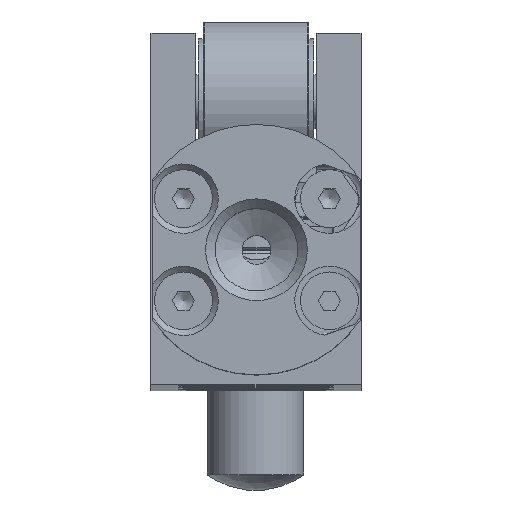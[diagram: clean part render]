
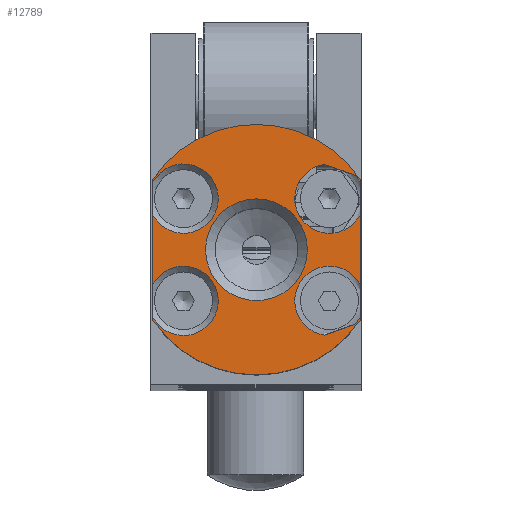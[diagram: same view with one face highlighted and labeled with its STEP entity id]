
A CAD part, top view. The second image highlights one B-rep face of the part: STEP entity #12789.
In plain terms, the highlighted planar face has unit normal (0, 0, 1).
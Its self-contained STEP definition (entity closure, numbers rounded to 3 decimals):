
#320=FACE_BOUND('',#3295,.T.);
#982=LINE('',#23935,#1497);
#983=LINE('',#23937,#1498);
#984=LINE('',#23942,#1499);
#991=LINE('',#23991,#1506);
#994=LINE('',#24012,#1509);
#995=LINE('',#24013,#1510);
#996=LINE('',#24014,#1511);
#999=LINE('',#24028,#1514);
#1497=VECTOR('',#18525,10.);
#1498=VECTOR('',#18526,10.);
#1499=VECTOR('',#18527,10.);
#1506=VECTOR('',#18566,10.);
#1509=VECTOR('',#18583,10.);
#1510=VECTOR('',#18584,10.);
#1511=VECTOR('',#18585,10.);
#1514=VECTOR('',#18602,10.);
#2499=FACE_OUTER_BOUND('',#3294,.T.);
#3294=EDGE_LOOP('',(#11205,#11206,#11207,#11208,#11209,#11210,#11211,#11212,
#11213,#11214,#11215,#11216,#11217,#11218,#11219,#11220));
#3295=EDGE_LOOP('',(#11221));
#4415=CIRCLE('',#14545,13.);
#4420=CIRCLE('',#14554,13.);
#4426=CIRCLE('',#14565,5.283);
#4429=CIRCLE('',#14570,3.6);
#4432=CIRCLE('',#14576,3.6);
#4433=CIRCLE('',#14577,3.6);
#4436=CIRCLE('',#14583,3.6);
#4437=CIRCLE('',#14585,3.6);
#4438=CIRCLE('',#14586,3.6);
#5673=VERTEX_POINT('',#23907);
#5674=VERTEX_POINT('',#23909);
#5678=VERTEX_POINT('',#23924);
#5679=VERTEX_POINT('',#23926);
#5680=VERTEX_POINT('',#23930);
#5681=VERTEX_POINT('',#23931);
#5682=VERTEX_POINT('',#23936);
#5683=VERTEX_POINT('',#23938);
#5689=VERTEX_POINT('',#23960);
#5692=VERTEX_POINT('',#23970);
#5694=VERTEX_POINT('',#23975);
#5695=VERTEX_POINT('',#23982);
#5697=VERTEX_POINT('',#23987);
#5700=VERTEX_POINT('',#24003);
#5702=VERTEX_POINT('',#24008);
#5705=VERTEX_POINT('',#24025);
#5706=VERTEX_POINT('',#24027);
#7502=EDGE_CURVE('',#5674,#5673,#4415,.T.);
#7509=EDGE_CURVE('',#5678,#5679,#4420,.T.);
#7512=EDGE_CURVE('',#5674,#5681,#982,.T.);
#7513=EDGE_CURVE('',#5682,#5679,#983,.T.);
#7515=EDGE_CURVE('',#5680,#5683,#984,.T.);
#7524=EDGE_CURVE('',#5689,#5689,#4426,.T.);
#7530=EDGE_CURVE('',#5694,#5692,#4429,.T.);
#7535=EDGE_CURVE('',#5695,#5697,#991,.T.);
#7539=EDGE_CURVE('',#5697,#5682,#4432,.T.);
#7541=EDGE_CURVE('',#5683,#5695,#4433,.T.);
#7544=EDGE_CURVE('',#5692,#5702,#994,.T.);
#7545=EDGE_CURVE('',#5678,#5694,#995,.T.);
#7546=EDGE_CURVE('',#5700,#5673,#996,.T.);
#7550=EDGE_CURVE('',#5702,#5700,#4436,.T.);
#7552=EDGE_CURVE('',#5681,#5705,#4437,.T.);
#7553=EDGE_CURVE('',#5705,#5706,#999,.T.);
#7554=EDGE_CURVE('',#5706,#5680,#4438,.T.);
#11205=ORIENTED_EDGE('',*,*,#7552,.T.);
#11206=ORIENTED_EDGE('',*,*,#7553,.T.);
#11207=ORIENTED_EDGE('',*,*,#7554,.T.);
#11208=ORIENTED_EDGE('',*,*,#7515,.T.);
#11209=ORIENTED_EDGE('',*,*,#7541,.T.);
#11210=ORIENTED_EDGE('',*,*,#7535,.T.);
#11211=ORIENTED_EDGE('',*,*,#7539,.T.);
#11212=ORIENTED_EDGE('',*,*,#7513,.T.);
#11213=ORIENTED_EDGE('',*,*,#7509,.F.);
#11214=ORIENTED_EDGE('',*,*,#7545,.T.);
#11215=ORIENTED_EDGE('',*,*,#7530,.T.);
#11216=ORIENTED_EDGE('',*,*,#7544,.T.);
#11217=ORIENTED_EDGE('',*,*,#7550,.T.);
#11218=ORIENTED_EDGE('',*,*,#7546,.T.);
#11219=ORIENTED_EDGE('',*,*,#7502,.F.);
#11220=ORIENTED_EDGE('',*,*,#7512,.T.);
#11221=ORIENTED_EDGE('',*,*,#7524,.F.);
#11543=PLANE('',#14584);
#12789=ADVANCED_FACE('',(#2499,#320),#11543,.T.);
#14545=AXIS2_PLACEMENT_3D('',#23911,#18500,#18501);
#14554=AXIS2_PLACEMENT_3D('',#23927,#18520,#18521);
#14565=AXIS2_PLACEMENT_3D('',#23961,#18549,#18550);
#14570=AXIS2_PLACEMENT_3D('',#23976,#18561,#18562);
#14576=AXIS2_PLACEMENT_3D('',#23999,#18576,#18577);
#14577=AXIS2_PLACEMENT_3D('',#24001,#18579,#18580);
#14583=AXIS2_PLACEMENT_3D('',#24022,#18595,#18596);
#14584=AXIS2_PLACEMENT_3D('',#24024,#18598,#18599);
#14585=AXIS2_PLACEMENT_3D('',#24026,#18600,#18601);
#14586=AXIS2_PLACEMENT_3D('',#24029,#18603,#18604);
#18500=DIRECTION('center_axis',(0.,0.,
-1.));
#18501=DIRECTION('ref_axis',(0.,1.,0.));
#18520=DIRECTION('center_axis',(0.,0.,
-1.));
#18521=DIRECTION('ref_axis',(0.,1.,0.));
#18525=DIRECTION('',(0.,1.,0.));
#18526=DIRECTION('',(0.,1.,0.));
#18527=DIRECTION('',(0.,1.,0.));
#18549=DIRECTION('center_axis',(0.,0.,
1.));
#18550=DIRECTION('ref_axis',(-1.,0.,0.));
#18561=DIRECTION('center_axis',(0.,0.,
-1.));
#18562=DIRECTION('ref_axis',(1.,0.,0.));
#18566=DIRECTION('',(0.94,-0.342,0.));
#18576=DIRECTION('center_axis',(0.,0.,
-1.));
#18577=DIRECTION('ref_axis',(-0.342,-0.94,0.));
#18579=DIRECTION('center_axis',(0.,0.,
-1.));
#18580=DIRECTION('ref_axis',(-0.342,-0.94,0.));
#18583=DIRECTION('',(0.,-1.,0.));
#18584=DIRECTION('',(0.,-1.,0.));
#18585=DIRECTION('',(0.,-1.,0.));
#18595=DIRECTION('center_axis',(0.,0.,
-1.));
#18596=DIRECTION('ref_axis',(1.,0.,0.));
#18598=DIRECTION('center_axis',(0.,0.,
1.));
#18599=DIRECTION('ref_axis',(1.,0.,0.));
#18600=DIRECTION('center_axis',(0.,0.,
-1.));
#18601=DIRECTION('ref_axis',(-0.342,0.94,0.));
#18602=DIRECTION('',(-0.94,-0.342,0.));
#18603=DIRECTION('center_axis',(0.,0.,
-1.));
#18604=DIRECTION('ref_axis',(-0.342,0.94,0.));
#23907=CARTESIAN_POINT('',(-10.7,-11.56,196.));
#23909=CARTESIAN_POINT('',(10.8,-11.56,196.));
#23911=CARTESIAN_POINT('Origin',(0.05,-4.25,196.));
#23924=CARTESIAN_POINT('',(-10.7,3.06,196.));
#23926=CARTESIAN_POINT('',(10.8,3.06,196.));
#23927=CARTESIAN_POINT('Origin',(0.05,-4.25,196.));
#23930=CARTESIAN_POINT('',(10.8,-7.855,196.));
#23931=CARTESIAN_POINT('',(10.8,-11.256,196.));
#23935=CARTESIAN_POINT('',(10.8,-4.655,196.));
#23936=CARTESIAN_POINT('',(10.8,2.756,196.));
#23937=CARTESIAN_POINT('',(10.8,-4.655,196.));
#23938=CARTESIAN_POINT('',(10.8,-0.645,196.));
#23942=CARTESIAN_POINT('',(10.8,-4.655,196.));
#23960=CARTESIAN_POINT('',(5.333,-4.25,196.));
#23961=CARTESIAN_POINT('Origin',(0.05,-4.25,196.));
#23970=CARTESIAN_POINT('',(-10.7,-0.645,196.));
#23975=CARTESIAN_POINT('',(-10.7,2.756,196.));
#23976=CARTESIAN_POINT('Origin',(-7.527,1.056,196.));
#23982=CARTESIAN_POINT('',(7.114,4.619,196.));
#23987=CARTESIAN_POINT('',(10.311,3.455,196.));
#23991=CARTESIAN_POINT('',(6.117,4.982,196.));
#23999=CARTESIAN_POINT('Origin',(7.627,1.056,196.));
#24001=CARTESIAN_POINT('Origin',(7.627,1.056,196.));
#24003=CARTESIAN_POINT('',(-10.7,-11.256,196.));
#24008=CARTESIAN_POINT('',(-10.7,-7.855,196.));
#24012=CARTESIAN_POINT('',(-10.7,2.655,196.));
#24013=CARTESIAN_POINT('',(-10.7,2.655,196.));
#24014=CARTESIAN_POINT('',(-10.7,2.655,196.));
#24022=CARTESIAN_POINT('Origin',(-7.527,-9.556,196.));
#24024=CARTESIAN_POINT('Origin',(0.05,2.25,196.));
#24025=CARTESIAN_POINT('',(10.311,-11.955,196.));
#24026=CARTESIAN_POINT('Origin',(7.627,-9.556,196.));
#24027=CARTESIAN_POINT('',(7.114,-13.119,196.));
#24028=CARTESIAN_POINT('',(8.206,-12.721,196.));
#24029=CARTESIAN_POINT('Origin',(7.627,-9.556,196.));
